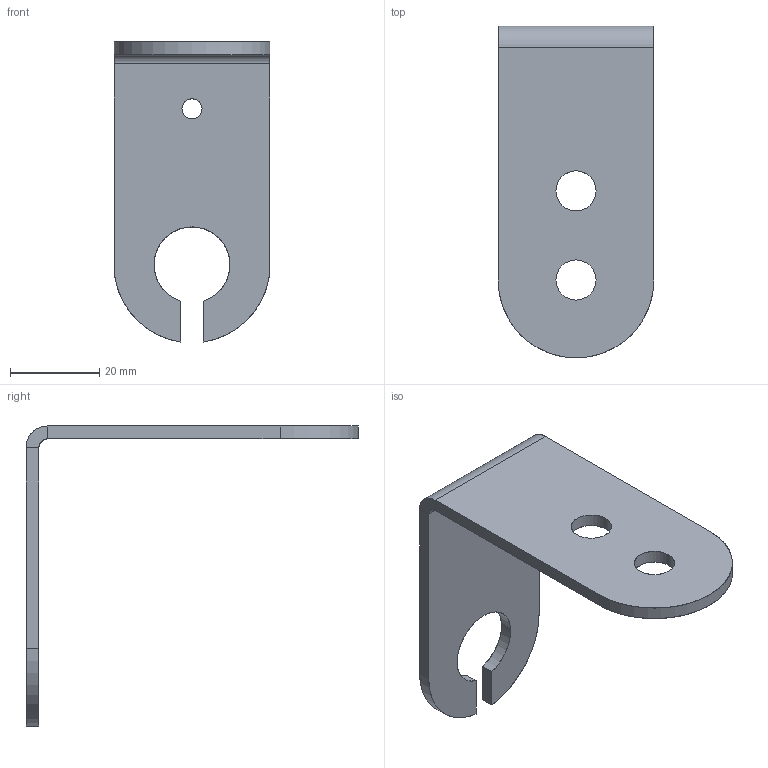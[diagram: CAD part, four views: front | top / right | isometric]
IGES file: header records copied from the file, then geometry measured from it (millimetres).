
Start section: SolidWorks IGES file using analytic representation for surfaces
Global section: file name: C:\PDMWTemp\11443-4.IGS; native system: SolidWorks 2009; preprocessor: SolidWorks 2009; author: MMark; date: 090727.163618; units: millimetre
Bounding box: 35 x 74.5 x 67.32 mm (x, y, z)
Surface area: 9574.7 mm2 (no closed solid volume)
Topology: 0 solids, 0 shells, 24 faces, 476 edges, 476 vertices
Faces by surface type: revolution 12, bspline 12
